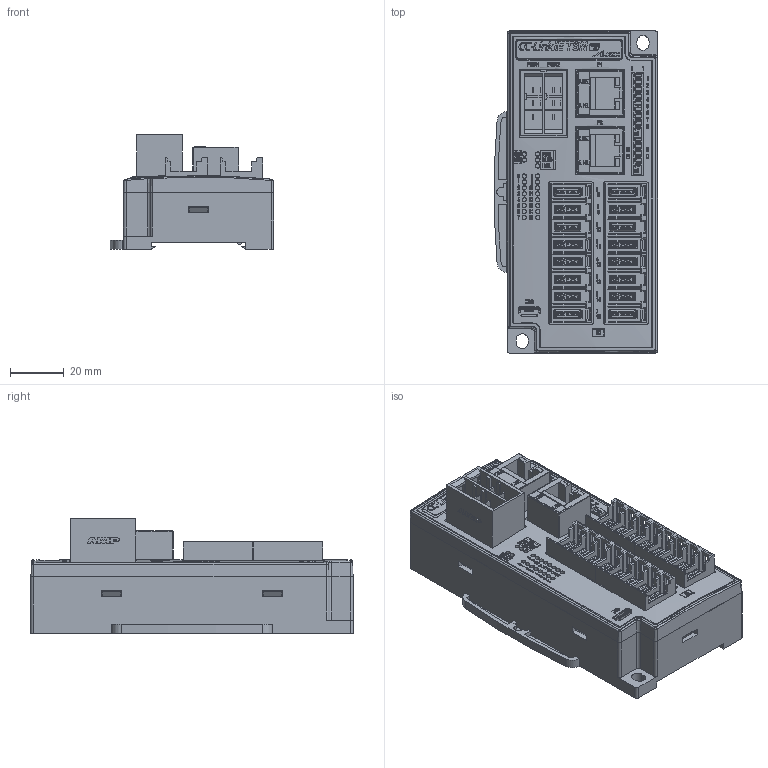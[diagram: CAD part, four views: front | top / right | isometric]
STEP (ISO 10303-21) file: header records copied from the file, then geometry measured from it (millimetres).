
FILE_DESCRIPTION((''),'2;1');
FILE_NAME('CTEPF0','2026-05-11T15:39:52',('gijyu181'),(''),'CREO PARAMETRIC BY PTC INC, 2018050','CREO PARAMETRIC BY PTC INC, 2018050','');
FILE_SCHEMA(('CONFIG_CONTROL_DESIGN','SHAPE_APPEARANCE_LAYERS_GROUPS'));
Products named in the file (1): CTEPF0
Bounding box: 60.87 x 120 x 42.6 mm (x, y, z)
Volume: 156781.1 mm3; surface area: 65242.1 mm2
Topology: 4 solids, 49 shells, 9652 faces, 27429 edges, 18269 vertices
Faces by surface type: plane 7521, extrusion 1318, cylinder 679, bspline 69, cone 41, torus 20, sphere 4
Entity records: 402442 total; most frequent: CARTESIAN_POINT 89926, ORIENTED_EDGE 54858, DIRECTION 43502, EDGE_CURVE 27429, VECTOR 23792, LINE 22474, VERTEX_POINT 18269, EDGE_LOOP 10686
